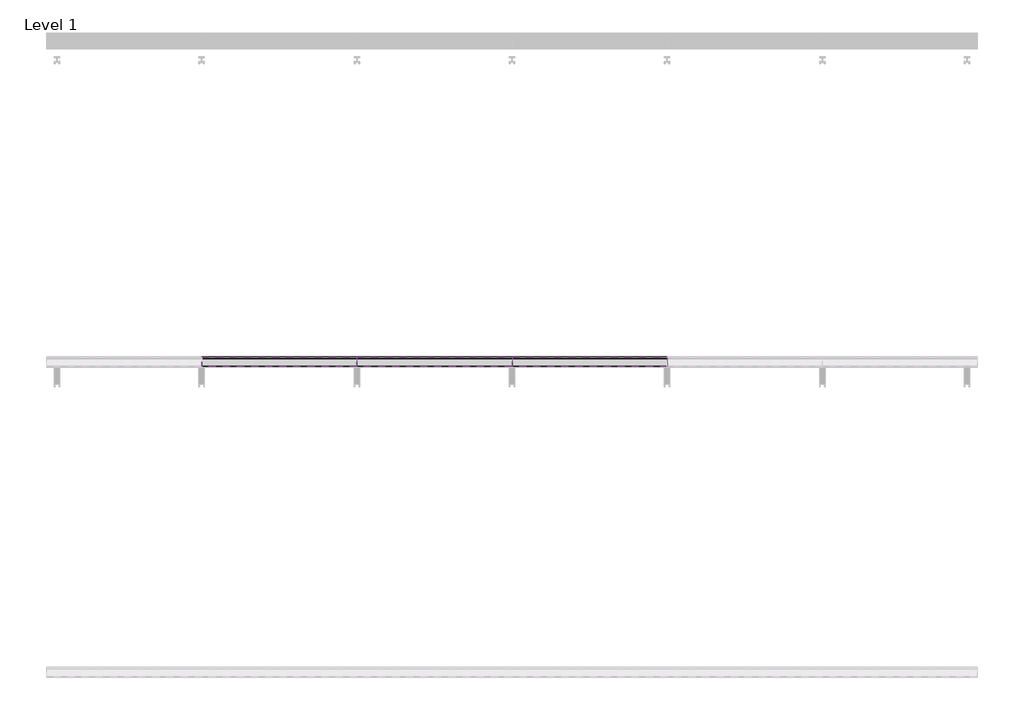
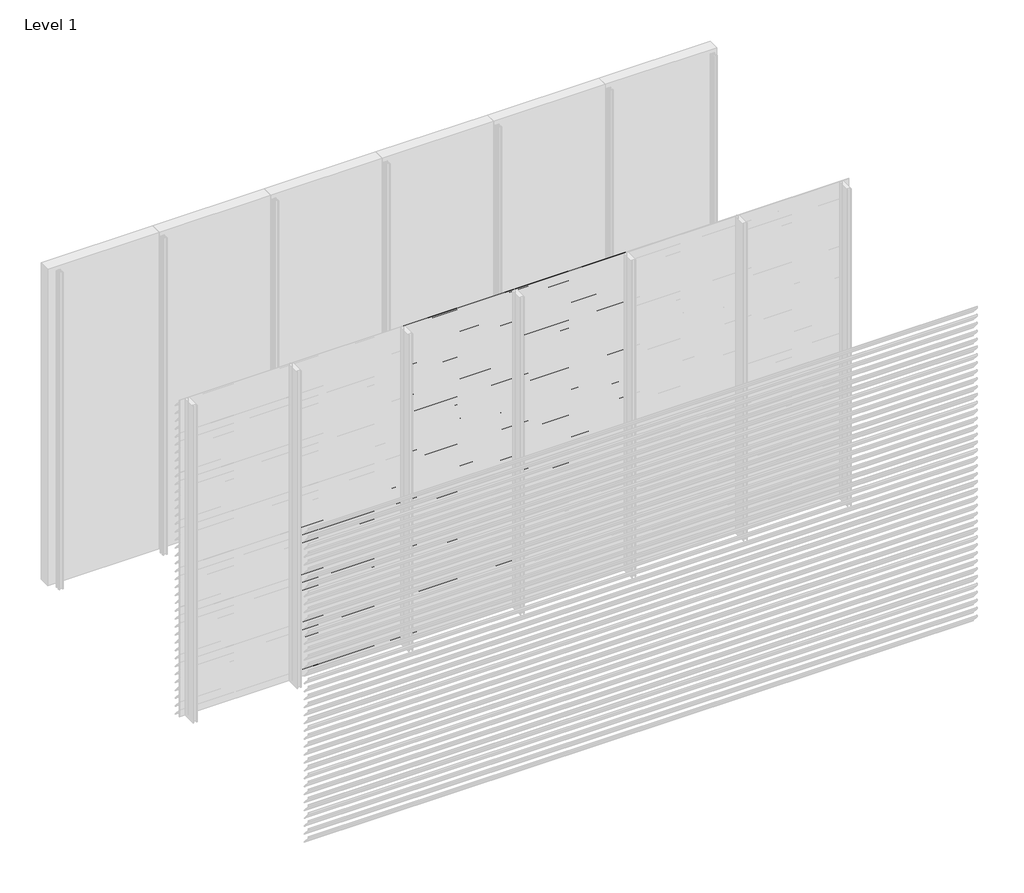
# One storey, part 8 of 35: 86 proxies.
"""IFC4 building model written with IfcOpenShell, lengths in millimetres."""

from ifc_helpers import new_model, si_unit, frame, origin, place, context, project, spatial, polyline, outline, extrude, element, save

model = new_model("IFC4")

# Units and contexts
model_context = context("Model", 3, world=origin())
ifc_project = project(units=[si_unit("LENGTHUNIT", "METRE", prefix="MILLI")], contexts=[model_context])

# Site, building, storey
site = spatial("IfcSite", under=ifc_project)
building = spatial("IfcBuilding", under=site)
storey = spatial("IfcBuildingStorey", under=building, Name="Level 1", Elevation=0.0)

# Proxies
placement = place(None, origin())
element("IfcBuildingElementProxy", 1, Name="Wall Sweeps", at=placement, inside=storey, context=model_context, shape_type="SweptSolid", body=[
    extrude(outline(polyline([(-47996.5, 1575.0), (-47996.5, 1560.5463701), (-47934.5, 1488.9330051), (-47934.5, 1485.4), (-47936.0, 1485.4), (-47936.0, 1488.3738975), (-47998.0, 1559.9872626), (-47998.0, 1575.0), (-47996.5, 1575.0)])), frame((1000.0, 0.0, 0.0), z_axis=(1.0, 0.0, 0.0), x_axis=(0.0, 1.0, 0.0)), (0.0, 0.0, 1.0), 1000.0),
])
element("IfcBuildingElementProxy", 2, Name="Wall Sweeps", at=placement, inside=storey, context=model_context, shape_type="SweptSolid", body=[
    extrude(outline(polyline([(-47996.5, 1500.0), (-47996.5, 1485.5463701), (-47934.5, 1413.9330051), (-47934.5, 1410.4), (-47936.0, 1410.4), (-47936.0, 1413.3738975), (-47998.0, 1484.9872626), (-47998.0, 1500.0), (-47996.5, 1500.0)])), frame((1000.0, 0.0, 0.0), z_axis=(1.0, 0.0, 0.0), x_axis=(0.0, 1.0, 0.0)), (0.0, 0.0, 1.0), 1000.0),
])
element("IfcBuildingElementProxy", 3, Name="Wall Sweeps", at=placement, inside=storey, context=model_context, shape_type="SweptSolid", body=[
    extrude(outline(polyline([(-47996.5, 1425.0), (-47996.5, 1410.5463701), (-47934.5, 1338.9330051), (-47934.5, 1335.4), (-47936.0, 1335.4), (-47936.0, 1338.3738975), (-47998.0, 1409.9872626), (-47998.0, 1425.0), (-47996.5, 1425.0)])), frame((1000.0, 0.0, 0.0), z_axis=(1.0, 0.0, 0.0), x_axis=(0.0, 1.0, 0.0)), (0.0, 0.0, 1.0), 1000.0),
])
element("IfcBuildingElementProxy", 4, Name="Wall Sweeps", at=placement, inside=storey, context=model_context, shape_type="SweptSolid", body=[
    extrude(outline(polyline([(-47996.5, 1350.0), (-47996.5, 1335.5463701), (-47934.5, 1263.9330051), (-47934.5, 1260.4), (-47936.0, 1260.4), (-47936.0, 1263.3738975), (-47998.0, 1334.9872626), (-47998.0, 1350.0), (-47996.5, 1350.0)])), frame((1000.0, 0.0, 0.0), z_axis=(1.0, 0.0, 0.0), x_axis=(0.0, 1.0, 0.0)), (0.0, 0.0, 1.0), 1000.0),
])
element("IfcBuildingElementProxy", 5, Name="Wall Sweeps", at=placement, inside=storey, context=model_context, shape_type="SweptSolid", body=[
    extrude(outline(polyline([(-47996.5, 1275.0), (-47996.5, 1260.5463701), (-47934.5, 1188.9330051), (-47934.5, 1185.4), (-47936.0, 1185.4), (-47936.0, 1188.3738975), (-47998.0, 1259.9872626), (-47998.0, 1275.0), (-47996.5, 1275.0)])), frame((1000.0, 0.0, 0.0), z_axis=(1.0, 0.0, 0.0), x_axis=(0.0, 1.0, 0.0)), (0.0, 0.0, 1.0), 1000.0),
])
element("IfcBuildingElementProxy", 6, Name="Wall Sweeps", at=placement, inside=storey, context=model_context, shape_type="SweptSolid", body=[
    extrude(outline(polyline([(-47996.5, 1200.0), (-47996.5, 1185.5463701), (-47934.5, 1113.9330051), (-47934.5, 1110.4), (-47936.0, 1110.4), (-47936.0, 1113.3738975), (-47998.0, 1184.9872626), (-47998.0, 1200.0), (-47996.5, 1200.0)])), frame((1000.0, 0.0, 0.0), z_axis=(1.0, 0.0, 0.0), x_axis=(0.0, 1.0, 0.0)), (0.0, 0.0, 1.0), 1000.0),
])
element("IfcBuildingElementProxy", 7, Name="Wall Sweeps", at=placement, inside=storey, context=model_context, shape_type="SweptSolid", body=[
    extrude(outline(polyline([(-47996.5, 1125.0), (-47996.5, 1110.5463701), (-47934.5, 1038.9330051), (-47934.5, 1035.4), (-47936.0, 1035.4), (-47936.0, 1038.3738975), (-47998.0, 1109.9872626), (-47998.0, 1125.0), (-47996.5, 1125.0)])), frame((1000.0, 0.0, 0.0), z_axis=(1.0, 0.0, 0.0), x_axis=(0.0, 1.0, 0.0)), (0.0, 0.0, 1.0), 1000.0),
])
element("IfcBuildingElementProxy", 8, Name="Wall Sweeps", at=placement, inside=storey, context=model_context, shape_type="SweptSolid", body=[
    extrude(outline(polyline([(-47996.5, 1050.0), (-47996.5, 1035.5463701), (-47934.5, 963.9330051), (-47934.5, 960.4), (-47936.0, 960.4), (-47936.0, 963.3738975), (-47998.0, 1034.9872626), (-47998.0, 1050.0), (-47996.5, 1050.0)])), frame((1000.0, 0.0, 0.0), z_axis=(1.0, 0.0, 0.0), x_axis=(0.0, 1.0, 0.0)), (0.0, 0.0, 1.0), 1000.0),
])
element("IfcBuildingElementProxy", 9, Name="Wall Sweeps", at=placement, inside=storey, context=model_context, shape_type="SweptSolid", body=[
    extrude(outline(polyline([(-47996.5, 975.0), (-47996.5, 960.5463701), (-47934.5, 888.9330051), (-47934.5, 885.4), (-47936.0, 885.4), (-47936.0, 888.3738975), (-47998.0, 959.9872626), (-47998.0, 975.0), (-47996.5, 975.0)])), frame((1000.0, 0.0, 0.0), z_axis=(1.0, 0.0, 0.0), x_axis=(0.0, 1.0, 0.0)), (0.0, 0.0, 1.0), 1000.0),
])
element("IfcBuildingElementProxy", 10, Name="Wall Sweeps", at=placement, inside=storey, context=model_context, shape_type="SweptSolid", body=[
    extrude(outline(polyline([(-47996.5, 900.0), (-47996.5, 885.5463701), (-47934.5, 813.9330051), (-47934.5, 810.4), (-47936.0, 810.4), (-47936.0, 813.3738975), (-47998.0, 884.9872626), (-47998.0, 900.0), (-47996.5, 900.0)])), frame((1000.0, 0.0, 0.0), z_axis=(1.0, 0.0, 0.0), x_axis=(0.0, 1.0, 0.0)), (0.0, 0.0, 1.0), 1000.0),
])
element("IfcBuildingElementProxy", 11, Name="Wall Sweeps", at=placement, inside=storey, context=model_context, shape_type="SweptSolid", body=[
    extrude(outline(polyline([(-47996.5, 825.0), (-47996.5, 810.5463701), (-47934.5, 738.9330051), (-47934.5, 735.4), (-47936.0, 735.4), (-47936.0, 738.3738975), (-47998.0, 809.9872626), (-47998.0, 825.0), (-47996.5, 825.0)])), frame((1000.0, 0.0, 0.0), z_axis=(1.0, 0.0, 0.0), x_axis=(0.0, 1.0, 0.0)), (0.0, 0.0, 1.0), 1000.0),
])
element("IfcBuildingElementProxy", 12, Name="Wall Sweeps", at=placement, inside=storey, context=model_context, shape_type="SweptSolid", body=[
    extrude(outline(polyline([(-47996.5, 750.0), (-47996.5, 735.5463701), (-47934.5, 663.9330051), (-47934.5, 660.4), (-47936.0, 660.4), (-47936.0, 663.3738975), (-47998.0, 734.9872626), (-47998.0, 750.0), (-47996.5, 750.0)])), frame((1000.0, 0.0, 0.0), z_axis=(1.0, 0.0, 0.0), x_axis=(0.0, 1.0, 0.0)), (0.0, 0.0, 1.0), 1000.0),
])
element("IfcBuildingElementProxy", 13, Name="Wall Sweeps", at=placement, inside=storey, context=model_context, shape_type="SweptSolid", body=[
    extrude(outline(polyline([(-47996.5, 675.0), (-47996.5, 660.5463701), (-47934.5, 588.9330051), (-47934.5, 585.4), (-47936.0, 585.4), (-47936.0, 588.3738975), (-47998.0, 659.9872626), (-47998.0, 675.0), (-47996.5, 675.0)])), frame((1000.0, 0.0, 0.0), z_axis=(1.0, 0.0, 0.0), x_axis=(0.0, 1.0, 0.0)), (0.0, 0.0, 1.0), 1000.0),
])
element("IfcBuildingElementProxy", 14, Name="Wall Sweeps", at=placement, inside=storey, context=model_context, shape_type="SweptSolid", body=[
    extrude(outline(polyline([(-47996.5, 600.0), (-47996.5, 585.5463701), (-47934.5, 513.9330051), (-47934.5, 510.4), (-47936.0, 510.4), (-47936.0, 513.3738975), (-47998.0, 584.9872626), (-47998.0, 600.0), (-47996.5, 600.0)])), frame((1000.0, 0.0, 0.0), z_axis=(1.0, 0.0, 0.0), x_axis=(0.0, 1.0, 0.0)), (0.0, 0.0, 1.0), 1000.0),
])
element("IfcBuildingElementProxy", 15, Name="Wall Sweeps", at=placement, inside=storey, context=model_context, shape_type="SweptSolid", body=[
    extrude(outline(polyline([(-47996.5, 525.0), (-47996.5, 510.5463701), (-47934.5, 438.9330051), (-47934.5, 435.4), (-47936.0, 435.4), (-47936.0, 438.3738975), (-47998.0, 509.9872626), (-47998.0, 525.0), (-47996.5, 525.0)])), frame((1000.0, 0.0, 0.0), z_axis=(1.0, 0.0, 0.0), x_axis=(0.0, 1.0, 0.0)), (0.0, 0.0, 1.0), 1000.0),
])
element("IfcBuildingElementProxy", 16, Name="Wall Sweeps", at=placement, inside=storey, context=model_context, shape_type="SweptSolid", body=[
    extrude(outline(polyline([(-47996.5, 450.0), (-47996.5, 435.5463701), (-47934.5, 363.9330051), (-47934.5, 360.4), (-47936.0, 360.4), (-47936.0, 363.3738975), (-47998.0, 434.9872626), (-47998.0, 450.0), (-47996.5, 450.0)])), frame((1000.0, 0.0, 0.0), z_axis=(1.0, 0.0, 0.0), x_axis=(0.0, 1.0, 0.0)), (0.0, 0.0, 1.0), 1000.0),
])
element("IfcBuildingElementProxy", 17, Name="Wall Sweeps", at=placement, inside=storey, context=model_context, shape_type="SweptSolid", body=[
    extrude(outline(polyline([(-47996.5, 375.0), (-47996.5, 360.5463701), (-47934.5, 288.9330051), (-47934.5, 285.4), (-47936.0, 285.4), (-47936.0, 288.3738975), (-47998.0, 359.9872626), (-47998.0, 375.0), (-47996.5, 375.0)])), frame((1000.0, 0.0, 0.0), z_axis=(1.0, 0.0, 0.0), x_axis=(0.0, 1.0, 0.0)), (0.0, 0.0, 1.0), 1000.0),
])
element("IfcBuildingElementProxy", 18, Name="Wall Sweeps", at=placement, inside=storey, context=model_context, shape_type="SweptSolid", body=[
    extrude(outline(polyline([(-47996.5, 300.0), (-47996.5, 285.5463701), (-47934.5, 213.9330051), (-47934.5, 210.4), (-47936.0, 210.4), (-47936.0, 213.3738975), (-47998.0, 284.9872626), (-47998.0, 300.0), (-47996.5, 300.0)])), frame((1000.0, 0.0, 0.0), z_axis=(1.0, 0.0, 0.0), x_axis=(0.0, 1.0, 0.0)), (0.0, 0.0, 1.0), 1000.0),
])
element("IfcBuildingElementProxy", 19, Name="Wall Sweeps", at=placement, inside=storey, context=model_context, shape_type="SweptSolid", body=[
    extrude(outline(polyline([(-47996.5, 225.0), (-47996.5, 210.5463701), (-47934.5, 138.9330051), (-47934.5, 135.4), (-47936.0, 135.4), (-47936.0, 138.3738975), (-47998.0, 209.9872626), (-47998.0, 225.0), (-47996.5, 225.0)])), frame((1000.0, 0.0, 0.0), z_axis=(1.0, 0.0, 0.0), x_axis=(0.0, 1.0, 0.0)), (0.0, 0.0, 1.0), 1000.0),
])
element("IfcBuildingElementProxy", 20, Name="Wall Sweeps", at=placement, inside=storey, context=model_context, shape_type="SweptSolid", body=[
    extrude(outline(polyline([(-47996.5, 150.0), (-47996.5, 135.5463701), (-47934.5, 63.9330051), (-47934.5, 60.4), (-47936.0, 60.4), (-47936.0, 63.3738975), (-47998.0, 134.9872626), (-47998.0, 150.0), (-47996.5, 150.0)])), frame((1000.0, 0.0, 0.0), z_axis=(1.0, 0.0, 0.0), x_axis=(0.0, 1.0, 0.0)), (0.0, 0.0, 1.0), 1000.0),
])
element("IfcBuildingElementProxy", 21, Name="Wall Sweeps", at=placement, inside=storey, context=model_context, shape_type="SweptSolid", body=[
    extrude(outline(polyline([(-47996.5, 75.0), (-47996.5, 60.5463701), (-47934.5, -11.0669949), (-47934.5, -14.6), (-47936.0, -14.6), (-47936.0, -11.6261025), (-47998.0, 59.9872626), (-47998.0, 75.0), (-47996.5, 75.0)])), frame((1000.0, 0.0, 0.0), z_axis=(1.0, 0.0, 0.0), x_axis=(0.0, 1.0, 0.0)), (0.0, 0.0, 1.0), 1000.0),
])
element("IfcBuildingElementProxy", 22, Name="Wall Sweeps", at=placement, inside=storey, context=model_context, shape_type="SweptSolid", body=[
    extrude(outline(polyline([(-47996.5, 3000.0), (-47996.5, 2985.5463701), (-47934.5, 2913.9330051), (-47934.5, 2910.4), (-47936.0, 2910.4), (-47936.0, 2913.3738975), (-47998.0, 2984.9872626), (-47998.0, 3000.0), (-47996.5, 3000.0)])), frame((2000.0, 0.0, 0.0), z_axis=(1.0, 0.0, 0.0), x_axis=(0.0, 1.0, 0.0)), (0.0, 0.0, 1.0), 1000.0),
])
element("IfcBuildingElementProxy", 23, Name="Wall Sweeps", at=placement, inside=storey, context=model_context, shape_type="SweptSolid", body=[
    extrude(outline(polyline([(-47996.5, 2925.0), (-47996.5, 2910.5463701), (-47934.5, 2838.9330051), (-47934.5, 2835.4), (-47936.0, 2835.4), (-47936.0, 2838.3738975), (-47998.0, 2909.9872626), (-47998.0, 2925.0), (-47996.5, 2925.0)])), frame((2000.0, 0.0, 0.0), z_axis=(1.0, 0.0, 0.0), x_axis=(0.0, 1.0, 0.0)), (0.0, 0.0, 1.0), 1000.0),
])
element("IfcBuildingElementProxy", 24, Name="Wall Sweeps", at=placement, inside=storey, context=model_context, shape_type="SweptSolid", body=[
    extrude(outline(polyline([(-47996.5, 2850.0), (-47996.5, 2835.5463701), (-47934.5, 2763.9330051), (-47934.5, 2760.4), (-47936.0, 2760.4), (-47936.0, 2763.3738975), (-47998.0, 2834.9872626), (-47998.0, 2850.0), (-47996.5, 2850.0)])), frame((2000.0, 0.0, 0.0), z_axis=(1.0, 0.0, 0.0), x_axis=(0.0, 1.0, 0.0)), (0.0, 0.0, 1.0), 1000.0),
])
element("IfcBuildingElementProxy", 25, Name="Wall Sweeps", at=placement, inside=storey, context=model_context, shape_type="SweptSolid", body=[
    extrude(outline(polyline([(-47996.5, 2775.0), (-47996.5, 2760.5463701), (-47934.5, 2688.9330051), (-47934.5, 2685.4), (-47936.0, 2685.4), (-47936.0, 2688.3738975), (-47998.0, 2759.9872626), (-47998.0, 2775.0), (-47996.5, 2775.0)])), frame((2000.0, 0.0, 0.0), z_axis=(1.0, 0.0, 0.0), x_axis=(0.0, 1.0, 0.0)), (0.0, 0.0, 1.0), 1000.0),
])
element("IfcBuildingElementProxy", 26, Name="Wall Sweeps", at=placement, inside=storey, context=model_context, shape_type="SweptSolid", body=[
    extrude(outline(polyline([(-47996.5, 2700.0), (-47996.5, 2685.5463701), (-47934.5, 2613.9330051), (-47934.5, 2610.4), (-47936.0, 2610.4), (-47936.0, 2613.3738975), (-47998.0, 2684.9872626), (-47998.0, 2700.0), (-47996.5, 2700.0)])), frame((2000.0, 0.0, 0.0), z_axis=(1.0, 0.0, 0.0), x_axis=(0.0, 1.0, 0.0)), (0.0, 0.0, 1.0), 1000.0),
])
element("IfcBuildingElementProxy", 27, Name="Wall Sweeps", at=placement, inside=storey, context=model_context, shape_type="SweptSolid", body=[
    extrude(outline(polyline([(-47996.5, 2625.0), (-47996.5, 2610.5463701), (-47934.5, 2538.9330051), (-47934.5, 2535.4), (-47936.0, 2535.4), (-47936.0, 2538.3738975), (-47998.0, 2609.9872626), (-47998.0, 2625.0), (-47996.5, 2625.0)])), frame((2000.0, 0.0, 0.0), z_axis=(1.0, 0.0, 0.0), x_axis=(0.0, 1.0, 0.0)), (0.0, 0.0, 1.0), 1000.0),
])
element("IfcBuildingElementProxy", 28, Name="Wall Sweeps", at=placement, inside=storey, context=model_context, shape_type="SweptSolid", body=[
    extrude(outline(polyline([(-47996.5, 2550.0), (-47996.5, 2535.5463701), (-47934.5, 2463.9330051), (-47934.5, 2460.4), (-47936.0, 2460.4), (-47936.0, 2463.3738975), (-47998.0, 2534.9872626), (-47998.0, 2550.0), (-47996.5, 2550.0)])), frame((2000.0, 0.0, 0.0), z_axis=(1.0, 0.0, 0.0), x_axis=(0.0, 1.0, 0.0)), (0.0, 0.0, 1.0), 1000.0),
])
element("IfcBuildingElementProxy", 29, Name="Wall Sweeps", at=placement, inside=storey, context=model_context, shape_type="SweptSolid", body=[
    extrude(outline(polyline([(-47996.5, 2475.0), (-47996.5, 2460.5463701), (-47934.5, 2388.9330051), (-47934.5, 2385.4), (-47936.0, 2385.4), (-47936.0, 2388.3738975), (-47998.0, 2459.9872626), (-47998.0, 2475.0), (-47996.5, 2475.0)])), frame((2000.0, 0.0, 0.0), z_axis=(1.0, 0.0, 0.0), x_axis=(0.0, 1.0, 0.0)), (0.0, 0.0, 1.0), 1000.0),
])
element("IfcBuildingElementProxy", 30, Name="Wall Sweeps", at=placement, inside=storey, context=model_context, shape_type="SweptSolid", body=[
    extrude(outline(polyline([(-47996.5, 2400.0), (-47996.5, 2385.5463701), (-47934.5, 2313.9330051), (-47934.5, 2310.4), (-47936.0, 2310.4), (-47936.0, 2313.3738975), (-47998.0, 2384.9872626), (-47998.0, 2400.0), (-47996.5, 2400.0)])), frame((2000.0, 0.0, 0.0), z_axis=(1.0, 0.0, 0.0), x_axis=(0.0, 1.0, 0.0)), (0.0, 0.0, 1.0), 1000.0),
])
element("IfcBuildingElementProxy", 31, Name="Wall Sweeps", at=placement, inside=storey, context=model_context, shape_type="SweptSolid", body=[
    extrude(outline(polyline([(-47996.5, 2325.0), (-47996.5, 2310.5463701), (-47934.5, 2238.9330051), (-47934.5, 2235.4), (-47936.0, 2235.4), (-47936.0, 2238.3738975), (-47998.0, 2309.9872626), (-47998.0, 2325.0), (-47996.5, 2325.0)])), frame((2000.0, 0.0, 0.0), z_axis=(1.0, 0.0, 0.0), x_axis=(0.0, 1.0, 0.0)), (0.0, 0.0, 1.0), 1000.0),
])
element("IfcBuildingElementProxy", 32, Name="Wall Sweeps", at=placement, inside=storey, context=model_context, shape_type="SweptSolid", body=[
    extrude(outline(polyline([(-47996.5, 2250.0), (-47996.5, 2235.5463701), (-47934.5, 2163.9330051), (-47934.5, 2160.4), (-47936.0, 2160.4), (-47936.0, 2163.3738975), (-47998.0, 2234.9872626), (-47998.0, 2250.0), (-47996.5, 2250.0)])), frame((2000.0, 0.0, 0.0), z_axis=(1.0, 0.0, 0.0), x_axis=(0.0, 1.0, 0.0)), (0.0, 0.0, 1.0), 1000.0),
])
element("IfcBuildingElementProxy", 33, Name="Wall Sweeps", at=placement, inside=storey, context=model_context, shape_type="SweptSolid", body=[
    extrude(outline(polyline([(-47996.5, 2175.0), (-47996.5, 2160.5463701), (-47934.5, 2088.9330051), (-47934.5, 2085.4), (-47936.0, 2085.4), (-47936.0, 2088.3738975), (-47998.0, 2159.9872626), (-47998.0, 2175.0), (-47996.5, 2175.0)])), frame((2000.0, 0.0, 0.0), z_axis=(1.0, 0.0, 0.0), x_axis=(0.0, 1.0, 0.0)), (0.0, 0.0, 1.0), 1000.0),
])
element("IfcBuildingElementProxy", 34, Name="Wall Sweeps", at=placement, inside=storey, context=model_context, shape_type="SweptSolid", body=[
    extrude(outline(polyline([(-47996.5, 2100.0), (-47996.5, 2085.5463701), (-47934.5, 2013.9330051), (-47934.5, 2010.4), (-47936.0, 2010.4), (-47936.0, 2013.3738975), (-47998.0, 2084.9872626), (-47998.0, 2100.0), (-47996.5, 2100.0)])), frame((2000.0, 0.0, 0.0), z_axis=(1.0, 0.0, 0.0), x_axis=(0.0, 1.0, 0.0)), (0.0, 0.0, 1.0), 1000.0),
])
element("IfcBuildingElementProxy", 35, Name="Wall Sweeps", at=placement, inside=storey, context=model_context, shape_type="SweptSolid", body=[
    extrude(outline(polyline([(-47996.5, 2025.0), (-47996.5, 2010.5463701), (-47934.5, 1938.9330051), (-47934.5, 1935.4), (-47936.0, 1935.4), (-47936.0, 1938.3738975), (-47998.0, 2009.9872626), (-47998.0, 2025.0), (-47996.5, 2025.0)])), frame((2000.0, 0.0, 0.0), z_axis=(1.0, 0.0, 0.0), x_axis=(0.0, 1.0, 0.0)), (0.0, 0.0, 1.0), 1000.0),
])
element("IfcBuildingElementProxy", 36, Name="Wall Sweeps", at=placement, inside=storey, context=model_context, shape_type="SweptSolid", body=[
    extrude(outline(polyline([(-47996.5, 1950.0), (-47996.5, 1935.5463701), (-47934.5, 1863.9330051), (-47934.5, 1860.4), (-47936.0, 1860.4), (-47936.0, 1863.3738975), (-47998.0, 1934.9872626), (-47998.0, 1950.0), (-47996.5, 1950.0)])), frame((2000.0, 0.0, 0.0), z_axis=(1.0, 0.0, 0.0), x_axis=(0.0, 1.0, 0.0)), (0.0, 0.0, 1.0), 1000.0),
])
element("IfcBuildingElementProxy", 37, Name="Wall Sweeps", at=placement, inside=storey, context=model_context, shape_type="SweptSolid", body=[
    extrude(outline(polyline([(-47996.5, 1875.0), (-47996.5, 1860.5463701), (-47934.5, 1788.9330051), (-47934.5, 1785.4), (-47936.0, 1785.4), (-47936.0, 1788.3738975), (-47998.0, 1859.9872626), (-47998.0, 1875.0), (-47996.5, 1875.0)])), frame((2000.0, 0.0, 0.0), z_axis=(1.0, 0.0, 0.0), x_axis=(0.0, 1.0, 0.0)), (0.0, 0.0, 1.0), 1000.0),
])
element("IfcBuildingElementProxy", 38, Name="Wall Sweeps", at=placement, inside=storey, context=model_context, shape_type="SweptSolid", body=[
    extrude(outline(polyline([(-47996.5, 1800.0), (-47996.5, 1785.5463701), (-47934.5, 1713.9330051), (-47934.5, 1710.4), (-47936.0, 1710.4), (-47936.0, 1713.3738975), (-47998.0, 1784.9872626), (-47998.0, 1800.0), (-47996.5, 1800.0)])), frame((2000.0, 0.0, 0.0), z_axis=(1.0, 0.0, 0.0), x_axis=(0.0, 1.0, 0.0)), (0.0, 0.0, 1.0), 1000.0),
])
element("IfcBuildingElementProxy", 39, Name="Wall Sweeps", at=placement, inside=storey, context=model_context, shape_type="SweptSolid", body=[
    extrude(outline(polyline([(-47996.5, 1725.0), (-47996.5, 1710.5463701), (-47934.5, 1638.9330051), (-47934.5, 1635.4), (-47936.0, 1635.4), (-47936.0, 1638.3738975), (-47998.0, 1709.9872626), (-47998.0, 1725.0), (-47996.5, 1725.0)])), frame((2000.0, 0.0, 0.0), z_axis=(1.0, 0.0, 0.0), x_axis=(0.0, 1.0, 0.0)), (0.0, 0.0, 1.0), 1000.0),
])
element("IfcBuildingElementProxy", 40, Name="Wall Sweeps", at=placement, inside=storey, context=model_context, shape_type="SweptSolid", body=[
    extrude(outline(polyline([(-47996.5, 1650.0), (-47996.5, 1635.5463701), (-47934.5, 1563.9330051), (-47934.5, 1560.4), (-47936.0, 1560.4), (-47936.0, 1563.3738975), (-47998.0, 1634.9872626), (-47998.0, 1650.0), (-47996.5, 1650.0)])), frame((2000.0, 0.0, 0.0), z_axis=(1.0, 0.0, 0.0), x_axis=(0.0, 1.0, 0.0)), (0.0, 0.0, 1.0), 1000.0),
])
element("IfcBuildingElementProxy", 41, Name="Wall Sweeps", at=placement, inside=storey, context=model_context, shape_type="SweptSolid", body=[
    extrude(outline(polyline([(-47996.5, 1575.0), (-47996.5, 1560.5463701), (-47934.5, 1488.9330051), (-47934.5, 1485.4), (-47936.0, 1485.4), (-47936.0, 1488.3738975), (-47998.0, 1559.9872626), (-47998.0, 1575.0), (-47996.5, 1575.0)])), frame((2000.0, 0.0, 0.0), z_axis=(1.0, 0.0, 0.0), x_axis=(0.0, 1.0, 0.0)), (0.0, 0.0, 1.0), 1000.0),
])
element("IfcBuildingElementProxy", 42, Name="Wall Sweeps", at=placement, inside=storey, context=model_context, shape_type="SweptSolid", body=[
    extrude(outline(polyline([(-47996.5, 1500.0), (-47996.5, 1485.5463701), (-47934.5, 1413.9330051), (-47934.5, 1410.4), (-47936.0, 1410.4), (-47936.0, 1413.3738975), (-47998.0, 1484.9872626), (-47998.0, 1500.0), (-47996.5, 1500.0)])), frame((2000.0, 0.0, 0.0), z_axis=(1.0, 0.0, 0.0), x_axis=(0.0, 1.0, 0.0)), (0.0, 0.0, 1.0), 1000.0),
])
element("IfcBuildingElementProxy", 43, Name="Wall Sweeps", at=placement, inside=storey, context=model_context, shape_type="SweptSolid", body=[
    extrude(outline(polyline([(-47996.5, 1425.0), (-47996.5, 1410.5463701), (-47934.5, 1338.9330051), (-47934.5, 1335.4), (-47936.0, 1335.4), (-47936.0, 1338.3738975), (-47998.0, 1409.9872626), (-47998.0, 1425.0), (-47996.5, 1425.0)])), frame((2000.0, 0.0, 0.0), z_axis=(1.0, 0.0, 0.0), x_axis=(0.0, 1.0, 0.0)), (0.0, 0.0, 1.0), 1000.0),
])
element("IfcBuildingElementProxy", 44, Name="Wall Sweeps", at=placement, inside=storey, context=model_context, shape_type="SweptSolid", body=[
    extrude(outline(polyline([(-47996.5, 1350.0), (-47996.5, 1335.5463701), (-47934.5, 1263.9330051), (-47934.5, 1260.4), (-47936.0, 1260.4), (-47936.0, 1263.3738975), (-47998.0, 1334.9872626), (-47998.0, 1350.0), (-47996.5, 1350.0)])), frame((2000.0, 0.0, 0.0), z_axis=(1.0, 0.0, 0.0), x_axis=(0.0, 1.0, 0.0)), (0.0, 0.0, 1.0), 1000.0),
])
element("IfcBuildingElementProxy", 45, Name="Wall Sweeps", at=placement, inside=storey, context=model_context, shape_type="SweptSolid", body=[
    extrude(outline(polyline([(-47996.5, 1275.0), (-47996.5, 1260.5463701), (-47934.5, 1188.9330051), (-47934.5, 1185.4), (-47936.0, 1185.4), (-47936.0, 1188.3738975), (-47998.0, 1259.9872626), (-47998.0, 1275.0), (-47996.5, 1275.0)])), frame((2000.0, 0.0, 0.0), z_axis=(1.0, 0.0, 0.0), x_axis=(0.0, 1.0, 0.0)), (0.0, 0.0, 1.0), 1000.0),
])
element("IfcBuildingElementProxy", 46, Name="Wall Sweeps", at=placement, inside=storey, context=model_context, shape_type="SweptSolid", body=[
    extrude(outline(polyline([(-47996.5, 1200.0), (-47996.5, 1185.5463701), (-47934.5, 1113.9330051), (-47934.5, 1110.4), (-47936.0, 1110.4), (-47936.0, 1113.3738975), (-47998.0, 1184.9872626), (-47998.0, 1200.0), (-47996.5, 1200.0)])), frame((2000.0, 0.0, 0.0), z_axis=(1.0, 0.0, 0.0), x_axis=(0.0, 1.0, 0.0)), (0.0, 0.0, 1.0), 1000.0),
])
element("IfcBuildingElementProxy", 47, Name="Wall Sweeps", at=placement, inside=storey, context=model_context, shape_type="SweptSolid", body=[
    extrude(outline(polyline([(-47996.5, 1125.0), (-47996.5, 1110.5463701), (-47934.5, 1038.9330051), (-47934.5, 1035.4), (-47936.0, 1035.4), (-47936.0, 1038.3738975), (-47998.0, 1109.9872626), (-47998.0, 1125.0), (-47996.5, 1125.0)])), frame((2000.0, 0.0, 0.0), z_axis=(1.0, 0.0, 0.0), x_axis=(0.0, 1.0, 0.0)), (0.0, 0.0, 1.0), 1000.0),
])
element("IfcBuildingElementProxy", 48, Name="Wall Sweeps", at=placement, inside=storey, context=model_context, shape_type="SweptSolid", body=[
    extrude(outline(polyline([(-47996.5, 1050.0), (-47996.5, 1035.5463701), (-47934.5, 963.9330051), (-47934.5, 960.4), (-47936.0, 960.4), (-47936.0, 963.3738975), (-47998.0, 1034.9872626), (-47998.0, 1050.0), (-47996.5, 1050.0)])), frame((2000.0, 0.0, 0.0), z_axis=(1.0, 0.0, 0.0), x_axis=(0.0, 1.0, 0.0)), (0.0, 0.0, 1.0), 1000.0),
])
element("IfcBuildingElementProxy", 49, Name="Wall Sweeps", at=placement, inside=storey, context=model_context, shape_type="SweptSolid", body=[
    extrude(outline(polyline([(-47996.5, 975.0), (-47996.5, 960.5463701), (-47934.5, 888.9330051), (-47934.5, 885.4), (-47936.0, 885.4), (-47936.0, 888.3738975), (-47998.0, 959.9872626), (-47998.0, 975.0), (-47996.5, 975.0)])), frame((2000.0, 0.0, 0.0), z_axis=(1.0, 0.0, 0.0), x_axis=(0.0, 1.0, 0.0)), (0.0, 0.0, 1.0), 1000.0),
])
element("IfcBuildingElementProxy", 50, Name="Wall Sweeps", at=placement, inside=storey, context=model_context, shape_type="SweptSolid", body=[
    extrude(outline(polyline([(-47996.5, 900.0), (-47996.5, 885.5463701), (-47934.5, 813.9330051), (-47934.5, 810.4), (-47936.0, 810.4), (-47936.0, 813.3738975), (-47998.0, 884.9872626), (-47998.0, 900.0), (-47996.5, 900.0)])), frame((2000.0, 0.0, 0.0), z_axis=(1.0, 0.0, 0.0), x_axis=(0.0, 1.0, 0.0)), (0.0, 0.0, 1.0), 1000.0),
])
element("IfcBuildingElementProxy", 51, Name="Wall Sweeps", at=placement, inside=storey, context=model_context, shape_type="SweptSolid", body=[
    extrude(outline(polyline([(-47996.5, 825.0), (-47996.5, 810.5463701), (-47934.5, 738.9330051), (-47934.5, 735.4), (-47936.0, 735.4), (-47936.0, 738.3738975), (-47998.0, 809.9872626), (-47998.0, 825.0), (-47996.5, 825.0)])), frame((2000.0, 0.0, 0.0), z_axis=(1.0, 0.0, 0.0), x_axis=(0.0, 1.0, 0.0)), (0.0, 0.0, 1.0), 1000.0),
])
element("IfcBuildingElementProxy", 52, Name="Wall Sweeps", at=placement, inside=storey, context=model_context, shape_type="SweptSolid", body=[
    extrude(outline(polyline([(-47996.5, 750.0), (-47996.5, 735.5463701), (-47934.5, 663.9330051), (-47934.5, 660.4), (-47936.0, 660.4), (-47936.0, 663.3738975), (-47998.0, 734.9872626), (-47998.0, 750.0), (-47996.5, 750.0)])), frame((2000.0, 0.0, 0.0), z_axis=(1.0, 0.0, 0.0), x_axis=(0.0, 1.0, 0.0)), (0.0, 0.0, 1.0), 1000.0),
])
element("IfcBuildingElementProxy", 53, Name="Wall Sweeps", at=placement, inside=storey, context=model_context, shape_type="SweptSolid", body=[
    extrude(outline(polyline([(-47996.5, 675.0), (-47996.5, 660.5463701), (-47934.5, 588.9330051), (-47934.5, 585.4), (-47936.0, 585.4), (-47936.0, 588.3738975), (-47998.0, 659.9872626), (-47998.0, 675.0), (-47996.5, 675.0)])), frame((2000.0, 0.0, 0.0), z_axis=(1.0, 0.0, 0.0), x_axis=(0.0, 1.0, 0.0)), (0.0, 0.0, 1.0), 1000.0),
])
element("IfcBuildingElementProxy", 54, Name="Wall Sweeps", at=placement, inside=storey, context=model_context, shape_type="SweptSolid", body=[
    extrude(outline(polyline([(-47996.5, 600.0), (-47996.5, 585.5463701), (-47934.5, 513.9330051), (-47934.5, 510.4), (-47936.0, 510.4), (-47936.0, 513.3738975), (-47998.0, 584.9872626), (-47998.0, 600.0), (-47996.5, 600.0)])), frame((2000.0, 0.0, 0.0), z_axis=(1.0, 0.0, 0.0), x_axis=(0.0, 1.0, 0.0)), (0.0, 0.0, 1.0), 1000.0),
])
element("IfcBuildingElementProxy", 55, Name="Wall Sweeps", at=placement, inside=storey, context=model_context, shape_type="SweptSolid", body=[
    extrude(outline(polyline([(-47996.5, 525.0), (-47996.5, 510.5463701), (-47934.5, 438.9330051), (-47934.5, 435.4), (-47936.0, 435.4), (-47936.0, 438.3738975), (-47998.0, 509.9872626), (-47998.0, 525.0), (-47996.5, 525.0)])), frame((2000.0, 0.0, 0.0), z_axis=(1.0, 0.0, 0.0), x_axis=(0.0, 1.0, 0.0)), (0.0, 0.0, 1.0), 1000.0),
])
element("IfcBuildingElementProxy", 56, Name="Wall Sweeps", at=placement, inside=storey, context=model_context, shape_type="SweptSolid", body=[
    extrude(outline(polyline([(-47996.5, 450.0), (-47996.5, 435.5463701), (-47934.5, 363.9330051), (-47934.5, 360.4), (-47936.0, 360.4), (-47936.0, 363.3738975), (-47998.0, 434.9872626), (-47998.0, 450.0), (-47996.5, 450.0)])), frame((2000.0, 0.0, 0.0), z_axis=(1.0, 0.0, 0.0), x_axis=(0.0, 1.0, 0.0)), (0.0, 0.0, 1.0), 1000.0),
])
element("IfcBuildingElementProxy", 57, Name="Wall Sweeps", at=placement, inside=storey, context=model_context, shape_type="SweptSolid", body=[
    extrude(outline(polyline([(-47996.5, 375.0), (-47996.5, 360.5463701), (-47934.5, 288.9330051), (-47934.5, 285.4), (-47936.0, 285.4), (-47936.0, 288.3738975), (-47998.0, 359.9872626), (-47998.0, 375.0), (-47996.5, 375.0)])), frame((2000.0, 0.0, 0.0), z_axis=(1.0, 0.0, 0.0), x_axis=(0.0, 1.0, 0.0)), (0.0, 0.0, 1.0), 1000.0),
])
element("IfcBuildingElementProxy", 58, Name="Wall Sweeps", at=placement, inside=storey, context=model_context, shape_type="SweptSolid", body=[
    extrude(outline(polyline([(-47996.5, 300.0), (-47996.5, 285.5463701), (-47934.5, 213.9330051), (-47934.5, 210.4), (-47936.0, 210.4), (-47936.0, 213.3738975), (-47998.0, 284.9872626), (-47998.0, 300.0), (-47996.5, 300.0)])), frame((2000.0, 0.0, 0.0), z_axis=(1.0, 0.0, 0.0), x_axis=(0.0, 1.0, 0.0)), (0.0, 0.0, 1.0), 1000.0),
])
element("IfcBuildingElementProxy", 59, Name="Wall Sweeps", at=placement, inside=storey, context=model_context, shape_type="SweptSolid", body=[
    extrude(outline(polyline([(-47996.5, 225.0), (-47996.5, 210.5463701), (-47934.5, 138.9330051), (-47934.5, 135.4), (-47936.0, 135.4), (-47936.0, 138.3738975), (-47998.0, 209.9872626), (-47998.0, 225.0), (-47996.5, 225.0)])), frame((2000.0, 0.0, 0.0), z_axis=(1.0, 0.0, 0.0), x_axis=(0.0, 1.0, 0.0)), (0.0, 0.0, 1.0), 1000.0),
])
element("IfcBuildingElementProxy", 60, Name="Wall Sweeps", at=placement, inside=storey, context=model_context, shape_type="SweptSolid", body=[
    extrude(outline(polyline([(-47996.5, 150.0), (-47996.5, 135.5463701), (-47934.5, 63.9330051), (-47934.5, 60.4), (-47936.0, 60.4), (-47936.0, 63.3738975), (-47998.0, 134.9872626), (-47998.0, 150.0), (-47996.5, 150.0)])), frame((2000.0, 0.0, 0.0), z_axis=(1.0, 0.0, 0.0), x_axis=(0.0, 1.0, 0.0)), (0.0, 0.0, 1.0), 1000.0),
])
element("IfcBuildingElementProxy", 61, Name="Wall Sweeps", at=placement, inside=storey, context=model_context, shape_type="SweptSolid", body=[
    extrude(outline(polyline([(-47996.5, 75.0), (-47996.5, 60.5463701), (-47934.5, -11.0669949), (-47934.5, -14.6), (-47936.0, -14.6), (-47936.0, -11.6261025), (-47998.0, 59.9872626), (-47998.0, 75.0), (-47996.5, 75.0)])), frame((2000.0, 0.0, 0.0), z_axis=(1.0, 0.0, 0.0), x_axis=(0.0, 1.0, 0.0)), (0.0, 0.0, 1.0), 1000.0),
])
element("IfcBuildingElementProxy", 62, Name="Wall Sweeps", at=placement, inside=storey, context=model_context, shape_type="SweptSolid", body=[
    extrude(outline(polyline([(-47996.5, 3000.0), (-47996.5, 2985.5463701), (-47934.5, 2913.9330051), (-47934.5, 2910.4), (-47936.0, 2910.4), (-47936.0, 2913.3738975), (-47998.0, 2984.9872626), (-47998.0, 3000.0), (-47996.5, 3000.0)])), frame((3000.0, 0.0, 0.0), z_axis=(1.0, 0.0, 0.0), x_axis=(0.0, 1.0, 0.0)), (0.0, 0.0, 1.0), 1000.0),
])
element("IfcBuildingElementProxy", 63, Name="Wall Sweeps", at=placement, inside=storey, context=model_context, shape_type="SweptSolid", body=[
    extrude(outline(polyline([(-47996.5, 2925.0), (-47996.5, 2910.5463701), (-47934.5, 2838.9330051), (-47934.5, 2835.4), (-47936.0, 2835.4), (-47936.0, 2838.3738975), (-47998.0, 2909.9872626), (-47998.0, 2925.0), (-47996.5, 2925.0)])), frame((3000.0, 0.0, 0.0), z_axis=(1.0, 0.0, 0.0), x_axis=(0.0, 1.0, 0.0)), (0.0, 0.0, 1.0), 1000.0),
])
element("IfcBuildingElementProxy", 64, Name="Wall Sweeps", at=placement, inside=storey, context=model_context, shape_type="SweptSolid", body=[
    extrude(outline(polyline([(-47996.5, 2850.0), (-47996.5, 2835.5463701), (-47934.5, 2763.9330051), (-47934.5, 2760.4), (-47936.0, 2760.4), (-47936.0, 2763.3738975), (-47998.0, 2834.9872626), (-47998.0, 2850.0), (-47996.5, 2850.0)])), frame((3000.0, 0.0, 0.0), z_axis=(1.0, 0.0, 0.0), x_axis=(0.0, 1.0, 0.0)), (0.0, 0.0, 1.0), 1000.0),
])
element("IfcBuildingElementProxy", 65, Name="Wall Sweeps", at=placement, inside=storey, context=model_context, shape_type="SweptSolid", body=[
    extrude(outline(polyline([(-47996.5, 2775.0), (-47996.5, 2760.5463701), (-47934.5, 2688.9330051), (-47934.5, 2685.4), (-47936.0, 2685.4), (-47936.0, 2688.3738975), (-47998.0, 2759.9872626), (-47998.0, 2775.0), (-47996.5, 2775.0)])), frame((3000.0, 0.0, 0.0), z_axis=(1.0, 0.0, 0.0), x_axis=(0.0, 1.0, 0.0)), (0.0, 0.0, 1.0), 1000.0),
])
element("IfcBuildingElementProxy", 66, Name="Wall Sweeps", at=placement, inside=storey, context=model_context, shape_type="SweptSolid", body=[
    extrude(outline(polyline([(-47996.5, 2700.0), (-47996.5, 2685.5463701), (-47934.5, 2613.9330051), (-47934.5, 2610.4), (-47936.0, 2610.4), (-47936.0, 2613.3738975), (-47998.0, 2684.9872626), (-47998.0, 2700.0), (-47996.5, 2700.0)])), frame((3000.0, 0.0, 0.0), z_axis=(1.0, 0.0, 0.0), x_axis=(0.0, 1.0, 0.0)), (0.0, 0.0, 1.0), 1000.0),
])
element("IfcBuildingElementProxy", 67, Name="Wall Sweeps", at=placement, inside=storey, context=model_context, shape_type="SweptSolid", body=[
    extrude(outline(polyline([(-47996.5, 2625.0), (-47996.5, 2610.5463701), (-47934.5, 2538.9330051), (-47934.5, 2535.4), (-47936.0, 2535.4), (-47936.0, 2538.3738975), (-47998.0, 2609.9872626), (-47998.0, 2625.0), (-47996.5, 2625.0)])), frame((3000.0, 0.0, 0.0), z_axis=(1.0, 0.0, 0.0), x_axis=(0.0, 1.0, 0.0)), (0.0, 0.0, 1.0), 1000.0),
])
element("IfcBuildingElementProxy", 68, Name="Wall Sweeps", at=placement, inside=storey, context=model_context, shape_type="SweptSolid", body=[
    extrude(outline(polyline([(-47996.5, 2550.0), (-47996.5, 2535.5463701), (-47934.5, 2463.9330051), (-47934.5, 2460.4), (-47936.0, 2460.4), (-47936.0, 2463.3738975), (-47998.0, 2534.9872626), (-47998.0, 2550.0), (-47996.5, 2550.0)])), frame((3000.0, 0.0, 0.0), z_axis=(1.0, 0.0, 0.0), x_axis=(0.0, 1.0, 0.0)), (0.0, 0.0, 1.0), 1000.0),
])
element("IfcBuildingElementProxy", 69, Name="Wall Sweeps", at=placement, inside=storey, context=model_context, shape_type="SweptSolid", body=[
    extrude(outline(polyline([(-47996.5, 2475.0), (-47996.5, 2460.5463701), (-47934.5, 2388.9330051), (-47934.5, 2385.4), (-47936.0, 2385.4), (-47936.0, 2388.3738975), (-47998.0, 2459.9872626), (-47998.0, 2475.0), (-47996.5, 2475.0)])), frame((3000.0, 0.0, 0.0), z_axis=(1.0, 0.0, 0.0), x_axis=(0.0, 1.0, 0.0)), (0.0, 0.0, 1.0), 1000.0),
])
element("IfcBuildingElementProxy", 70, Name="Wall Sweeps", at=placement, inside=storey, context=model_context, shape_type="SweptSolid", body=[
    extrude(outline(polyline([(-47996.5, 2400.0), (-47996.5, 2385.5463701), (-47934.5, 2313.9330051), (-47934.5, 2310.4), (-47936.0, 2310.4), (-47936.0, 2313.3738975), (-47998.0, 2384.9872626), (-47998.0, 2400.0), (-47996.5, 2400.0)])), frame((3000.0, 0.0, 0.0), z_axis=(1.0, 0.0, 0.0), x_axis=(0.0, 1.0, 0.0)), (0.0, 0.0, 1.0), 1000.0),
])
element("IfcBuildingElementProxy", 71, Name="Wall Sweeps", at=placement, inside=storey, context=model_context, shape_type="SweptSolid", body=[
    extrude(outline(polyline([(-47996.5, 2325.0), (-47996.5, 2310.5463701), (-47934.5, 2238.9330051), (-47934.5, 2235.4), (-47936.0, 2235.4), (-47936.0, 2238.3738975), (-47998.0, 2309.9872626), (-47998.0, 2325.0), (-47996.5, 2325.0)])), frame((3000.0, 0.0, 0.0), z_axis=(1.0, 0.0, 0.0), x_axis=(0.0, 1.0, 0.0)), (0.0, 0.0, 1.0), 1000.0),
])
element("IfcBuildingElementProxy", 72, Name="Wall Sweeps", at=placement, inside=storey, context=model_context, shape_type="SweptSolid", body=[
    extrude(outline(polyline([(-47996.5, 2250.0), (-47996.5, 2235.5463701), (-47934.5, 2163.9330051), (-47934.5, 2160.4), (-47936.0, 2160.4), (-47936.0, 2163.3738975), (-47998.0, 2234.9872626), (-47998.0, 2250.0), (-47996.5, 2250.0)])), frame((3000.0, 0.0, 0.0), z_axis=(1.0, 0.0, 0.0), x_axis=(0.0, 1.0, 0.0)), (0.0, 0.0, 1.0), 1000.0),
])
element("IfcBuildingElementProxy", 73, Name="Wall Sweeps", at=placement, inside=storey, context=model_context, shape_type="SweptSolid", body=[
    extrude(outline(polyline([(-47996.5, 2175.0), (-47996.5, 2160.5463701), (-47934.5, 2088.9330051), (-47934.5, 2085.4), (-47936.0, 2085.4), (-47936.0, 2088.3738975), (-47998.0, 2159.9872626), (-47998.0, 2175.0), (-47996.5, 2175.0)])), frame((3000.0, 0.0, 0.0), z_axis=(1.0, 0.0, 0.0), x_axis=(0.0, 1.0, 0.0)), (0.0, 0.0, 1.0), 1000.0),
])
element("IfcBuildingElementProxy", 74, Name="Wall Sweeps", at=placement, inside=storey, context=model_context, shape_type="SweptSolid", body=[
    extrude(outline(polyline([(-47996.5, 2100.0), (-47996.5, 2085.5463701), (-47934.5, 2013.9330051), (-47934.5, 2010.4), (-47936.0, 2010.4), (-47936.0, 2013.3738975), (-47998.0, 2084.9872626), (-47998.0, 2100.0), (-47996.5, 2100.0)])), frame((3000.0, 0.0, 0.0), z_axis=(1.0, 0.0, 0.0), x_axis=(0.0, 1.0, 0.0)), (0.0, 0.0, 1.0), 1000.0),
])
element("IfcBuildingElementProxy", 75, Name="Wall Sweeps", at=placement, inside=storey, context=model_context, shape_type="SweptSolid", body=[
    extrude(outline(polyline([(-47996.5, 2025.0), (-47996.5, 2010.5463701), (-47934.5, 1938.9330051), (-47934.5, 1935.4), (-47936.0, 1935.4), (-47936.0, 1938.3738975), (-47998.0, 2009.9872626), (-47998.0, 2025.0), (-47996.5, 2025.0)])), frame((3000.0, 0.0, 0.0), z_axis=(1.0, 0.0, 0.0), x_axis=(0.0, 1.0, 0.0)), (0.0, 0.0, 1.0), 1000.0),
])
element("IfcBuildingElementProxy", 76, Name="Wall Sweeps", at=placement, inside=storey, context=model_context, shape_type="SweptSolid", body=[
    extrude(outline(polyline([(-47996.5, 1950.0), (-47996.5, 1935.5463701), (-47934.5, 1863.9330051), (-47934.5, 1860.4), (-47936.0, 1860.4), (-47936.0, 1863.3738975), (-47998.0, 1934.9872626), (-47998.0, 1950.0), (-47996.5, 1950.0)])), frame((3000.0, 0.0, 0.0), z_axis=(1.0, 0.0, 0.0), x_axis=(0.0, 1.0, 0.0)), (0.0, 0.0, 1.0), 1000.0),
])
element("IfcBuildingElementProxy", 77, Name="Wall Sweeps", at=placement, inside=storey, context=model_context, shape_type="SweptSolid", body=[
    extrude(outline(polyline([(-47996.5, 1875.0), (-47996.5, 1860.5463701), (-47934.5, 1788.9330051), (-47934.5, 1785.4), (-47936.0, 1785.4), (-47936.0, 1788.3738975), (-47998.0, 1859.9872626), (-47998.0, 1875.0), (-47996.5, 1875.0)])), frame((3000.0, 0.0, 0.0), z_axis=(1.0, 0.0, 0.0), x_axis=(0.0, 1.0, 0.0)), (0.0, 0.0, 1.0), 1000.0),
])
element("IfcBuildingElementProxy", 78, Name="Wall Sweeps", at=placement, inside=storey, context=model_context, shape_type="SweptSolid", body=[
    extrude(outline(polyline([(-47996.5, 1800.0), (-47996.5, 1785.5463701), (-47934.5, 1713.9330051), (-47934.5, 1710.4), (-47936.0, 1710.4), (-47936.0, 1713.3738975), (-47998.0, 1784.9872626), (-47998.0, 1800.0), (-47996.5, 1800.0)])), frame((3000.0, 0.0, 0.0), z_axis=(1.0, 0.0, 0.0), x_axis=(0.0, 1.0, 0.0)), (0.0, 0.0, 1.0), 1000.0),
])
element("IfcBuildingElementProxy", 79, Name="Wall Sweeps", at=placement, inside=storey, context=model_context, shape_type="SweptSolid", body=[
    extrude(outline(polyline([(-47996.5, 1725.0), (-47996.5, 1710.5463701), (-47934.5, 1638.9330051), (-47934.5, 1635.4), (-47936.0, 1635.4), (-47936.0, 1638.3738975), (-47998.0, 1709.9872626), (-47998.0, 1725.0), (-47996.5, 1725.0)])), frame((3000.0, 0.0, 0.0), z_axis=(1.0, 0.0, 0.0), x_axis=(0.0, 1.0, 0.0)), (0.0, 0.0, 1.0), 1000.0),
])
element("IfcBuildingElementProxy", 80, Name="Wall Sweeps", at=placement, inside=storey, context=model_context, shape_type="SweptSolid", body=[
    extrude(outline(polyline([(-47996.5, 1650.0), (-47996.5, 1635.5463701), (-47934.5, 1563.9330051), (-47934.5, 1560.4), (-47936.0, 1560.4), (-47936.0, 1563.3738975), (-47998.0, 1634.9872626), (-47998.0, 1650.0), (-47996.5, 1650.0)])), frame((3000.0, 0.0, 0.0), z_axis=(1.0, 0.0, 0.0), x_axis=(0.0, 1.0, 0.0)), (0.0, 0.0, 1.0), 1000.0),
])
element("IfcBuildingElementProxy", 81, Name="Wall Sweeps", at=placement, inside=storey, context=model_context, shape_type="SweptSolid", body=[
    extrude(outline(polyline([(-47996.5, 1575.0), (-47996.5, 1560.5463701), (-47934.5, 1488.9330051), (-47934.5, 1485.4), (-47936.0, 1485.4), (-47936.0, 1488.3738975), (-47998.0, 1559.9872626), (-47998.0, 1575.0), (-47996.5, 1575.0)])), frame((3000.0, 0.0, 0.0), z_axis=(1.0, 0.0, 0.0), x_axis=(0.0, 1.0, 0.0)), (0.0, 0.0, 1.0), 1000.0),
])
element("IfcBuildingElementProxy", 82, Name="Wall Sweeps", at=placement, inside=storey, context=model_context, shape_type="SweptSolid", body=[
    extrude(outline(polyline([(-47996.5, 1500.0), (-47996.5, 1485.5463701), (-47934.5, 1413.9330051), (-47934.5, 1410.4), (-47936.0, 1410.4), (-47936.0, 1413.3738975), (-47998.0, 1484.9872626), (-47998.0, 1500.0), (-47996.5, 1500.0)])), frame((3000.0, 0.0, 0.0), z_axis=(1.0, 0.0, 0.0), x_axis=(0.0, 1.0, 0.0)), (0.0, 0.0, 1.0), 1000.0),
])
element("IfcBuildingElementProxy", 83, Name="Wall Sweeps", at=placement, inside=storey, context=model_context, shape_type="SweptSolid", body=[
    extrude(outline(polyline([(-47996.5, 1425.0), (-47996.5, 1410.5463701), (-47934.5, 1338.9330051), (-47934.5, 1335.4), (-47936.0, 1335.4), (-47936.0, 1338.3738975), (-47998.0, 1409.9872626), (-47998.0, 1425.0), (-47996.5, 1425.0)])), frame((3000.0, 0.0, 0.0), z_axis=(1.0, 0.0, 0.0), x_axis=(0.0, 1.0, 0.0)), (0.0, 0.0, 1.0), 1000.0),
])
element("IfcBuildingElementProxy", 84, Name="Wall Sweeps", at=placement, inside=storey, context=model_context, shape_type="SweptSolid", body=[
    extrude(outline(polyline([(-47996.5, 1350.0), (-47996.5, 1335.5463701), (-47934.5, 1263.9330051), (-47934.5, 1260.4), (-47936.0, 1260.4), (-47936.0, 1263.3738975), (-47998.0, 1334.9872626), (-47998.0, 1350.0), (-47996.5, 1350.0)])), frame((3000.0, 0.0, 0.0), z_axis=(1.0, 0.0, 0.0), x_axis=(0.0, 1.0, 0.0)), (0.0, 0.0, 1.0), 1000.0),
])
element("IfcBuildingElementProxy", 85, Name="Wall Sweeps", at=placement, inside=storey, context=model_context, shape_type="SweptSolid", body=[
    extrude(outline(polyline([(-47996.5, 1275.0), (-47996.5, 1260.5463701), (-47934.5, 1188.9330051), (-47934.5, 1185.4), (-47936.0, 1185.4), (-47936.0, 1188.3738975), (-47998.0, 1259.9872626), (-47998.0, 1275.0), (-47996.5, 1275.0)])), frame((3000.0, 0.0, 0.0), z_axis=(1.0, 0.0, 0.0), x_axis=(0.0, 1.0, 0.0)), (0.0, 0.0, 1.0), 1000.0),
])
element("IfcBuildingElementProxy", 86, Name="Wall Sweeps", at=placement, inside=storey, context=model_context, shape_type="SweptSolid", body=[
    extrude(outline(polyline([(-47996.5, 1200.0), (-47996.5, 1185.5463701), (-47934.5, 1113.9330051), (-47934.5, 1110.4), (-47936.0, 1110.4), (-47936.0, 1113.3738975), (-47998.0, 1184.9872626), (-47998.0, 1200.0), (-47996.5, 1200.0)])), frame((3000.0, 0.0, 0.0), z_axis=(1.0, 0.0, 0.0), x_axis=(0.0, 1.0, 0.0)), (0.0, 0.0, 1.0), 1000.0),
])

save(model, "model.ifc")
